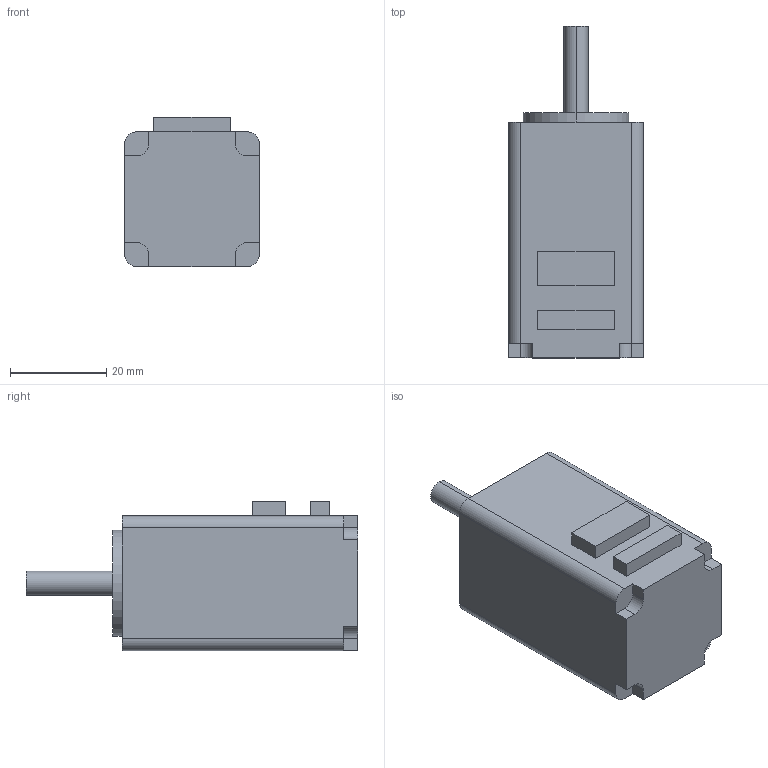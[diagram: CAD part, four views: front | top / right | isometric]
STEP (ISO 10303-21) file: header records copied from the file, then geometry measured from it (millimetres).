
FILE_DESCRIPTION (( 'STEP AP214' ), '1' );
FILE_NAME ('28HSM34S403G0520-001.STEP', '2019-10-15T07:28:17', ( 'wimxt.com' ), ( 'wimxt.com' ), 'SwSTEP 2.0', 'SolidWorks 2014', '' );
FILE_SCHEMA (( 'AUTOMOTIVE_DESIGN' ));
Length unit declared in the file: millimetre
Products named in the file (1): 28HSM34S403G0520-001
Bounding box: 28 x 69 x 31 mm (x, y, z)
Volume: 39448.5 mm3; surface area: 7639.6 mm2
Topology: 1 solids, 1 shells, 54 faces, 132 edges, 88 vertices
Faces by surface type: plane 34, cylinder 20
Entity records: 1630 total; most frequent: DIRECTION 282, CARTESIAN_POINT 275, ORIENTED_EDGE 264, EDGE_CURVE 132, AXIS2_PLACEMENT_3D 95, VECTOR 92, LINE 92, VERTEX_POINT 88
